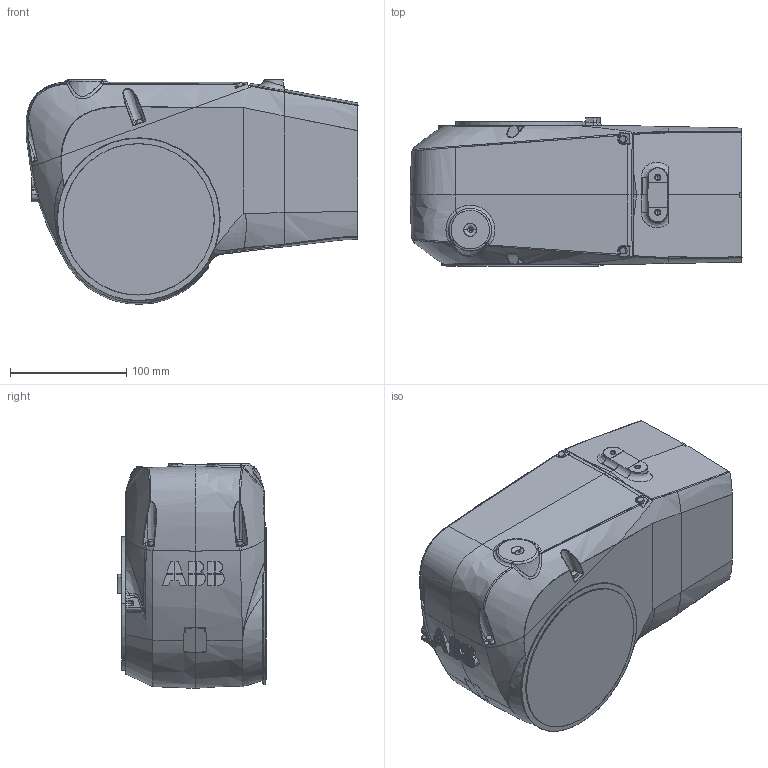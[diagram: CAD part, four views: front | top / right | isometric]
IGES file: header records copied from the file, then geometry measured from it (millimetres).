
Start section: SolidWorks IGES file using analytic representation for surfaces
Global section: file name: C:\Users\CNSHAN\Desktop\IRB1200H Light Weight Model\IRB1200H_7-70_IRC5_rev0_joints\IRB1200H_7-70_IRC5_Link3_rev0.igs; native system: SolidWorks 2020; preprocessor: SolidWorks 2020; author: CNSHAN; date: 220117.163552; units: millimetre
Bounding box: 285.25 x 127.5 x 192.99 mm (x, y, z)
Surface area: 179540.5 mm2 (no closed solid volume)
Topology: 0 solids, 0 shells, 473 faces, 5375 edges, 5361 vertices
Faces by surface type: bspline 351, revolution 122
